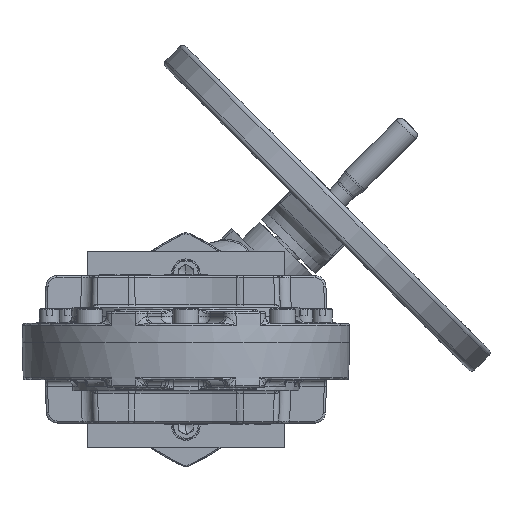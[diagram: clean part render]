
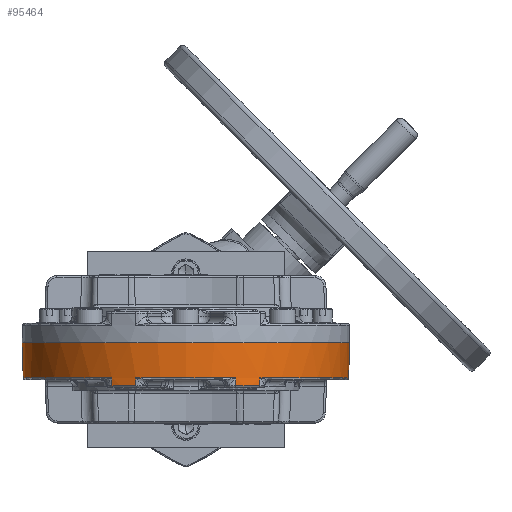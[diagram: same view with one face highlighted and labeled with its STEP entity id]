
A CAD part, front view. The second image highlights one B-rep face of the part: STEP entity #95464.
In plain terms, the highlighted conical face has half-angle 2 degrees and reference radius 150 mm.
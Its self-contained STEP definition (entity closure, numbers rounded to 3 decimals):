
#496 = CARTESIAN_POINT ( 'NONE',  ( 150., 0., 0. ) ) ;
#1137 = LINE ( 'NONE', #92627, #121740 ) ;
#1371 = DIRECTION ( 'NONE',  ( 1., 0., 0. ) ) ;
#3812 = VERTEX_POINT ( 'NONE', #84242 ) ;
#4357 = AXIS2_PLACEMENT_3D ( 'NONE', #52813, #119373, #62368 ) ;
#5442 = CARTESIAN_POINT ( 'NONE',  ( 0., 0., 0. ) ) ;
#7319 = CARTESIAN_POINT ( 'NONE',  ( 46.13, -142.731, 0. ) ) ;
#7536 = CARTESIAN_POINT ( 'NONE',  ( -150., 0., 0. ) ) ;
#8811 = CONICAL_SURFACE ( 'NONE', #68771, 150., 0.035 ) ;
#9913 = CARTESIAN_POINT ( 'NONE',  ( 0., 0., -39.07 ) ) ;
#10261 = VERTEX_POINT ( 'NONE', #63190 ) ;
#13028 = VERTEX_POINT ( 'NONE', #62309 ) ;
#13241 = ORIENTED_EDGE ( 'NONE', *, *, #72237, .F. ) ;
#15013 = DIRECTION ( 'NONE',  ( 0., 0., 1. ) ) ;
#17749 = VECTOR ( 'NONE', #112033, 1000. ) ;
#18295 = CARTESIAN_POINT ( 'NONE',  ( -148.88, 0., -32.07 ) ) ;
#18412 = CARTESIAN_POINT ( 'NONE',  ( -45.71, -141.432, -39.07 ) ) ;
#18638 = EDGE_CURVE ( 'NONE', #46772, #80667, #68426, .T. ) ;
#19462 = DIRECTION ( 'NONE',  ( 1., 0., 0. ) ) ;
#24929 = CIRCLE ( 'NONE', #43574, 148.636 ) ;
#26725 = CARTESIAN_POINT ( 'NONE',  ( 45.785, -141.665, -32.07 ) ) ;
#28473 = CARTESIAN_POINT ( 'NONE',  ( -68.307, -133.544, 0. ) ) ;
#29902 = CIRCLE ( 'NONE', #47941, 148.88 ) ;
#31633 = VECTOR ( 'NONE', #54788, 1000. ) ;
#33397 = DIRECTION ( 'NONE',  ( 0., 0., 1. ) ) ;
#34370 = DIRECTION ( 'NONE',  ( -0.035, 0., 0.999 ) ) ;
#34529 = VERTEX_POINT ( 'NONE', #496 ) ;
#36321 = ORIENTED_EDGE ( 'NONE', *, *, #40833, .T. ) ;
#40107 = VERTEX_POINT ( 'NONE', #7536 ) ;
#40833 = EDGE_CURVE ( 'NONE', #10261, #3812, #105607, .T. ) ;
#41436 = EDGE_CURVE ( 'NONE', #121677, #46772, #24929, .T. ) ;
#41591 = VECTOR ( 'NONE', #90532, 1000. ) ;
#43574 = AXIS2_PLACEMENT_3D ( 'NONE', #9913, #76496, #19462 ) ;
#43663 = ORIENTED_EDGE ( 'NONE', *, *, #18638, .T. ) ;
#45175 = ORIENTED_EDGE ( 'NONE', *, *, #41436, .T. ) ;
#45874 = CARTESIAN_POINT ( 'NONE',  ( 0., 0., -32.07 ) ) ;
#46104 = FACE_OUTER_BOUND ( 'NONE', #101145, .T. ) ;
#46772 = VERTEX_POINT ( 'NONE', #18412 ) ;
#47787 = CARTESIAN_POINT ( 'NONE',  ( 0., 0., -39.07 ) ) ;
#47941 = AXIS2_PLACEMENT_3D ( 'NONE', #115414, #58420, #1371 ) ;
#52813 = CARTESIAN_POINT ( 'NONE',  ( 0., 0., -32.07 ) ) ;
#53337 = DIRECTION ( 'NONE',  ( -1., 0., 0. ) ) ;
#53775 = CIRCLE ( 'NONE', #106426, 150. ) ;
#53854 = EDGE_CURVE ( 'NONE', #121677, #92029, #115439, .T. ) ;
#54135 = ORIENTED_EDGE ( 'NONE', *, *, #69524, .F. ) ;
#54788 = DIRECTION ( 'NONE',  ( 0.011, -0.033, 0.999 ) ) ;
#55461 = DIRECTION ( 'NONE',  ( 1., 0., 0. ) ) ;
#57276 = EDGE_CURVE ( 'NONE', #13028, #10261, #96979, .T. ) ;
#57412 = DIRECTION ( 'NONE',  ( 1., 0., 0. ) ) ;
#58420 = DIRECTION ( 'NONE',  ( 0., 0., 1. ) ) ;
#58792 = ORIENTED_EDGE ( 'NONE', *, *, #53854, .F. ) ;
#60495 = AXIS2_PLACEMENT_3D ( 'NONE', #47787, #114425, #57412 ) ;
#62180 = EDGE_CURVE ( 'NONE', #90336, #92029, #64526, .T. ) ;
#62309 = CARTESIAN_POINT ( 'NONE',  ( 45.71, -141.432, -39.07 ) ) ;
#62368 = DIRECTION ( 'NONE',  ( 1., 0., 0. ) ) ;
#63190 = CARTESIAN_POINT ( 'NONE',  ( 67.686, -132.33, -39.07 ) ) ;
#63198 = ORIENTED_EDGE ( 'NONE', *, *, #118002, .T. ) ;
#64526 = CIRCLE ( 'NONE', #105130, 148.88 ) ;
#68426 = LINE ( 'NONE', #83720, #17749 ) ;
#68771 = AXIS2_PLACEMENT_3D ( 'NONE', #5442, #33397, #53337 ) ;
#69524 = EDGE_CURVE ( 'NONE', #40107, #34529, #53775, .T. ) ;
#70643 = ORIENTED_EDGE ( 'NONE', *, *, #57276, .T. ) ;
#72089 = CARTESIAN_POINT ( 'NONE',  ( 0., 0., 0. ) ) ;
#72206 = ORIENTED_EDGE ( 'NONE', *, *, #99222, .F. ) ;
#72237 = EDGE_CURVE ( 'NONE', #90336, #40107, #95813, .T. ) ;
#74827 = ORIENTED_EDGE ( 'NONE', *, *, #114755, .T. ) ;
#76496 = DIRECTION ( 'NONE',  ( 0., 0., 1. ) ) ;
#79600 = VERTEX_POINT ( 'NONE', #26725 ) ;
#80667 = VERTEX_POINT ( 'NONE', #85543 ) ;
#80988 = CARTESIAN_POINT ( 'NONE',  ( -150., 0., 0. ) ) ;
#81000 = CARTESIAN_POINT ( 'NONE',  ( 68.307, -133.544, 0. ) ) ;
#81643 = DIRECTION ( 'NONE',  ( 1., 0., 0. ) ) ;
#82223 = LINE ( 'NONE', #7319, #31633 ) ;
#83393 = ORIENTED_EDGE ( 'NONE', *, *, #95224, .T. ) ;
#83720 = CARTESIAN_POINT ( 'NONE',  ( -46.13, -142.731, 0. ) ) ;
#83859 = DIRECTION ( 'NONE',  ( 0.035, 0., 0.999 ) ) ;
#84242 = CARTESIAN_POINT ( 'NONE',  ( 67.797, -132.547, -32.07 ) ) ;
#85543 = CARTESIAN_POINT ( 'NONE',  ( -45.785, -141.665, -32.07 ) ) ;
#86752 = VERTEX_POINT ( 'NONE', #108687 ) ;
#90083 = VECTOR ( 'NONE', #114195, 1000. ) ;
#90336 = VERTEX_POINT ( 'NONE', #18295 ) ;
#90532 = DIRECTION ( 'NONE',  ( 0.016, -0.031, 0.999 ) ) ;
#92029 = VERTEX_POINT ( 'NONE', #92374 ) ;
#92374 = CARTESIAN_POINT ( 'NONE',  ( -67.797, -132.547, -32.07 ) ) ;
#92627 = CARTESIAN_POINT ( 'NONE',  ( 150., 0., 0. ) ) ;
#95224 = EDGE_CURVE ( 'NONE', #3812, #86752, #29902, .T. ) ;
#95464 = ADVANCED_FACE ( 'NONE', ( #46104 ), #8811, .T. ) ;
#95813 = LINE ( 'NONE', #80988, #118129 ) ;
#96979 = CIRCLE ( 'NONE', #60495, 148.636 ) ;
#98126 = CIRCLE ( 'NONE', #4357, 148.88 ) ;
#99222 = EDGE_CURVE ( 'NONE', #13028, #79600, #82223, .T. ) ;
#101145 = EDGE_LOOP ( 'NONE', ( #83393, #63198, #54135, #13241, #119725, #58792, #45175, #43663, #74827, #72206, #70643, #36321 ) ) ;
#105130 = AXIS2_PLACEMENT_3D ( 'NONE', #45874, #112451, #55461 ) ;
#105607 = LINE ( 'NONE', #81000, #41591 ) ;
#106426 = AXIS2_PLACEMENT_3D ( 'NONE', #72089, #15013, #81643 ) ;
#108687 = CARTESIAN_POINT ( 'NONE',  ( 148.88, 0., -32.07 ) ) ;
#112033 = DIRECTION ( 'NONE',  ( -0.011, -0.033, 0.999 ) ) ;
#112451 = DIRECTION ( 'NONE',  ( 0., 0., 1. ) ) ;
#114195 = DIRECTION ( 'NONE',  ( -0.016, -0.031, 0.999 ) ) ;
#114425 = DIRECTION ( 'NONE',  ( 0., 0., 1. ) ) ;
#114755 = EDGE_CURVE ( 'NONE', #80667, #79600, #98126, .T. ) ;
#115414 = CARTESIAN_POINT ( 'NONE',  ( 0., 0., -32.07 ) ) ;
#115439 = LINE ( 'NONE', #28473, #90083 ) ;
#117527 = CARTESIAN_POINT ( 'NONE',  ( -67.686, -132.33, -39.07 ) ) ;
#118002 = EDGE_CURVE ( 'NONE', #86752, #34529, #1137, .T. ) ;
#118129 = VECTOR ( 'NONE', #34370, 1000. ) ;
#119373 = DIRECTION ( 'NONE',  ( 0., 0., 1. ) ) ;
#119725 = ORIENTED_EDGE ( 'NONE', *, *, #62180, .T. ) ;
#121677 = VERTEX_POINT ( 'NONE', #117527 ) ;
#121740 = VECTOR ( 'NONE', #83859, 1000. ) ;
